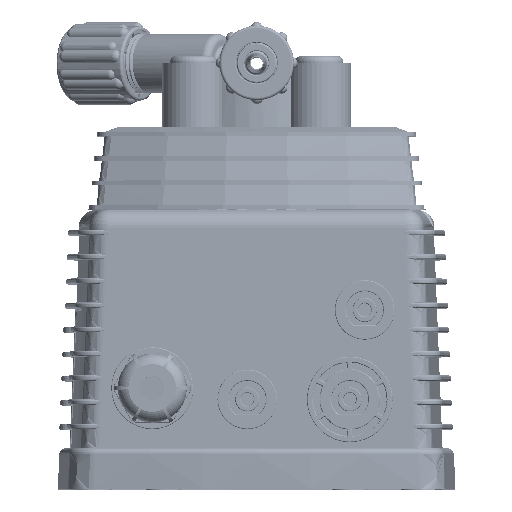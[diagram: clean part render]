
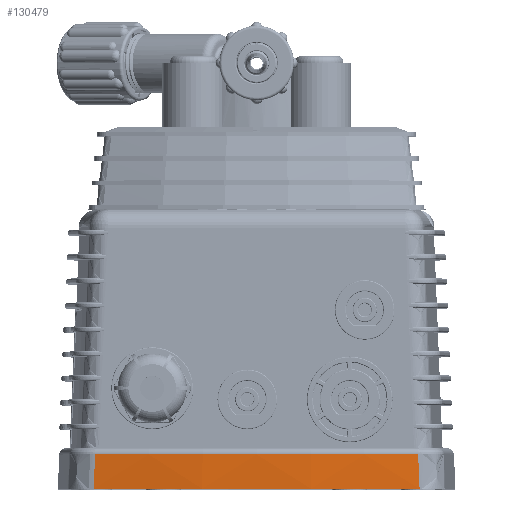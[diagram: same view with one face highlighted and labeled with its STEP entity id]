
A CAD part, top view. The second image highlights one B-rep face of the part: STEP entity #130479.
In plain terms, the highlighted conical face has half-angle 0.001 degrees and reference radius 320.781 mm.
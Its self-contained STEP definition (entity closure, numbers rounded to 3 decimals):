
#8084 = AXIS2_PLACEMENT_3D ( 'NONE', #128190, #273421, #176995 ) ;
#11122 = VERTEX_POINT ( 'NONE', #68733 ) ;
#20431 = CARTESIAN_POINT ( 'NONE',  ( 43.537, 4.34, 92.032 ) ) ;
#21130 = CARTESIAN_POINT ( 'NONE',  ( -43.657, 1.447, 92.015 ) ) ;
#44875 = CARTESIAN_POINT ( 'NONE',  ( 43.403, 7.58, 92.05 ) ) ;
#44885 = CONICAL_SURFACE ( 'NONE', #8084, 320.781, 0. ) ;
#51089 = AXIS2_PLACEMENT_3D ( 'NONE', #92042, #261765, #116436 ) ;
#57810 = VERTEX_POINT ( 'NONE', #157494 ) ;
#62063 = VERTEX_POINT ( 'NONE', #66749 ) ;
#66749 = CARTESIAN_POINT ( 'NONE',  ( 43.335, 9.2, 92.059 ) ) ;
#68733 = CARTESIAN_POINT ( 'NONE',  ( 0., 9.2, 95. ) ) ;
#72760 = AXIS2_PLACEMENT_3D ( 'NONE', #75409, #245303, #99901 ) ;
#75409 = CARTESIAN_POINT ( 'NONE',  ( 0., 9.2, -225.781 ) ) ;
#80073 = CARTESIAN_POINT ( 'NONE',  ( 43.717, 0., 92.007 ) ) ;
#82688 = CIRCLE ( 'NONE', #256109, 320.781 ) ;
#92042 = CARTESIAN_POINT ( 'NONE',  ( 0., 0., -225.781 ) ) ;
#92422 = CARTESIAN_POINT ( 'NONE',  ( -43.335, 9.2, 92.059 ) ) ;
#99901 = DIRECTION ( 'NONE',  ( 0., 0., 1. ) ) ;
#108123 = ORIENTED_EDGE ( 'NONE', *, *, #247054, .F. ) ;
#116436 = DIRECTION ( 'NONE',  ( 0., 0., 1. ) ) ;
#117147 = CARTESIAN_POINT ( 'NONE',  ( 43.657, 1.447, 92.015 ) ) ;
#118144 = ORIENTED_EDGE ( 'NONE', *, *, #312407, .T. ) ;
#123239 = CARTESIAN_POINT ( 'NONE',  ( 0., 9.2, -225.781 ) ) ;
#123739 = ORIENTED_EDGE ( 'NONE', *, *, #198730, .T. ) ;
#128190 = CARTESIAN_POINT ( 'NONE',  ( 0., 9.2, -225.781 ) ) ;
#130479 = ADVANCED_FACE ( 'NONE', ( #181707 ), #44885, .T. ) ;
#142260 = CARTESIAN_POINT ( 'NONE',  ( -43.47, 5.96, 92.041 ) ) ;
#146169 = EDGE_CURVE ( 'NONE', #11122, #62063, #148675, .T. ) ;
#146828 = VERTEX_POINT ( 'NONE', #263659 ) ;
#147681 = DIRECTION ( 'NONE',  ( 0., 0., 1. ) ) ;
#148675 = CIRCLE ( 'NONE', #72760, 320.781 ) ;
#152829 = EDGE_CURVE ( 'NONE', #245162, #62063, #237279, .T. ) ;
#157494 = CARTESIAN_POINT ( 'NONE',  ( -43.717, 0., 92.007 ) ) ;
#158489 = EDGE_LOOP ( 'NONE', ( #118144, #268549, #294007, #108123, #123739 ) ) ;
#165967 = CARTESIAN_POINT ( 'NONE',  ( 43.597, 2.893, 92.023 ) ) ;
#166670 = CARTESIAN_POINT ( 'NONE',  ( -43.597, 2.893, 92.023 ) ) ;
#176995 = DIRECTION ( 'NONE',  ( 0., 0., -1. ) ) ;
#181707 = FACE_OUTER_BOUND ( 'NONE', #158489, .T. ) ;
#190331 = CARTESIAN_POINT ( 'NONE',  ( 43.47, 5.96, 92.041 ) ) ;
#191039 = CARTESIAN_POINT ( 'NONE',  ( -43.717, 0., 92.007 ) ) ;
#198730 = EDGE_CURVE ( 'NONE', #146828, #57810, #213022, .T. ) ;
#213022 = B_SPLINE_CURVE_WITH_KNOTS ( 'NONE', 3,
 ( #92422, #237789, #142260, #311834, #166670, #21130, #191039 ),
 .UNSPECIFIED., .F., .F.,
 ( 4, 3, 4 ),
 ( 0., 0.005, 0.009 ),
 .UNSPECIFIED. ) ;
#214735 = CARTESIAN_POINT ( 'NONE',  ( 43.335, 9.2, 92.059 ) ) ;
#224374 = CIRCLE ( 'NONE', #51089, 320.781 ) ;
#237279 = B_SPLINE_CURVE_WITH_KNOTS ( 'NONE', 3,
 ( #286777, #117147, #165967, #20431, #190331, #44875, #214735 ),
 .UNSPECIFIED., .F., .F.,
 ( 4, 3, 4 ),
 ( 0., 0.004, 0.009 ),
 .UNSPECIFIED. ) ;
#237789 = CARTESIAN_POINT ( 'NONE',  ( -43.403, 7.58, 92.05 ) ) ;
#245162 = VERTEX_POINT ( 'NONE', #80073 ) ;
#245303 = DIRECTION ( 'NONE',  ( 0., 1., 0. ) ) ;
#247054 = EDGE_CURVE ( 'NONE', #146828, #11122, #82688, .T. ) ;
#256109 = AXIS2_PLACEMENT_3D ( 'NONE', #123239, #292899, #147681 ) ;
#261765 = DIRECTION ( 'NONE',  ( 0., 1., 0. ) ) ;
#263659 = CARTESIAN_POINT ( 'NONE',  ( -43.335, 9.2, 92.059 ) ) ;
#268549 = ORIENTED_EDGE ( 'NONE', *, *, #152829, .T. ) ;
#273421 = DIRECTION ( 'NONE',  ( 0., -1., 0. ) ) ;
#286777 = CARTESIAN_POINT ( 'NONE',  ( 43.717, 0., 92.007 ) ) ;
#292899 = DIRECTION ( 'NONE',  ( 0., 1., 0. ) ) ;
#294007 = ORIENTED_EDGE ( 'NONE', *, *, #146169, .F. ) ;
#311834 = CARTESIAN_POINT ( 'NONE',  ( -43.537, 4.34, 92.032 ) ) ;
#312407 = EDGE_CURVE ( 'NONE', #57810, #245162, #224374, .T. ) ;
